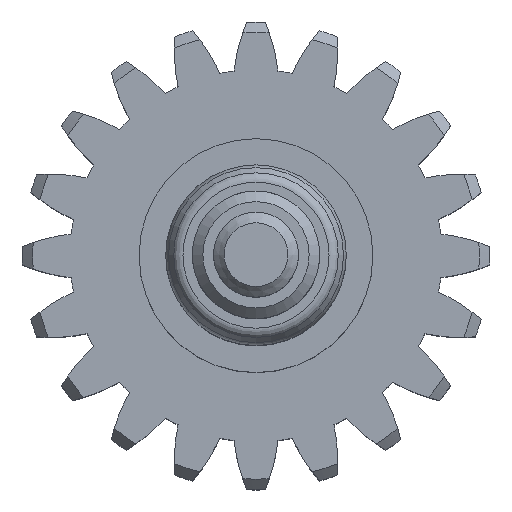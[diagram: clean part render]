
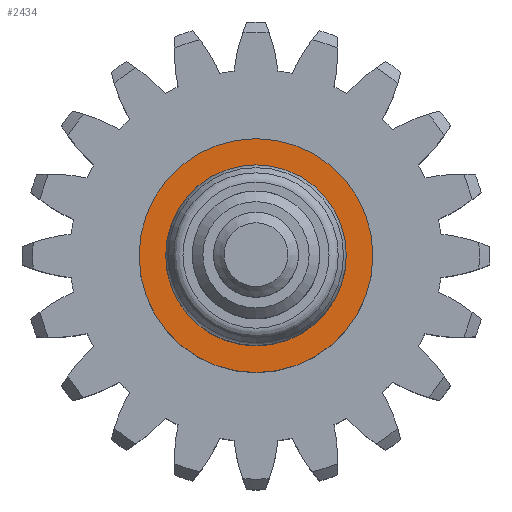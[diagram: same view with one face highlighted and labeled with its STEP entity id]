
A CAD part, top view. The second image highlights one B-rep face of the part: STEP entity #2434.
In plain terms, the highlighted planar face has unit normal (0, 0, 1).
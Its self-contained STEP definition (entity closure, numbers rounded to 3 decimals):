
#285=PLANE('',#2601);
#392=FACE_BOUND('',#579,.T.);
#417=FACE_OUTER_BOUND('',#578,.T.);
#578=EDGE_LOOP('',(#1644));
#579=EDGE_LOOP('',(#1645));
#712=CIRCLE('',#2575,8.5);
#722=CIRCLE('',#2599,11.);
#932=VERTEX_POINT('',#3769);
#950=VERTEX_POINT('',#3859);
#1200=EDGE_CURVE('',#932,#932,#712,.T.);
#1222=EDGE_CURVE('',#950,#950,#722,.T.);
#1644=ORIENTED_EDGE('',*,*,#1222,.T.);
#1645=ORIENTED_EDGE('',*,*,#1200,.T.);
#2434=ADVANCED_FACE('',(#417,#392),#285,.T.);
#2575=AXIS2_PLACEMENT_3D('',#3770,#2958,#2959);
#2599=AXIS2_PLACEMENT_3D('',#3860,#3014,#3015);
#2601=AXIS2_PLACEMENT_3D('',#3863,#3018,#3019);
#2958=DIRECTION('center_axis',(0.,0.,-1.));
#2959=DIRECTION('ref_axis',(-1.,0.,0.));
#3014=DIRECTION('center_axis',(0.,0.,1.));
#3015=DIRECTION('ref_axis',(-1.,0.,0.));
#3018=DIRECTION('center_axis',(0.,0.,1.));
#3019=DIRECTION('ref_axis',(1.,0.,0.));
#3769=CARTESIAN_POINT('',(8.5,0.,30.));
#3770=CARTESIAN_POINT('Origin',(0.,0.,30.));
#3859=CARTESIAN_POINT('',(11.,0.,30.));
#3860=CARTESIAN_POINT('Origin',(0.,0.,30.));
#3863=CARTESIAN_POINT('Origin',(0.,0.,
30.));
